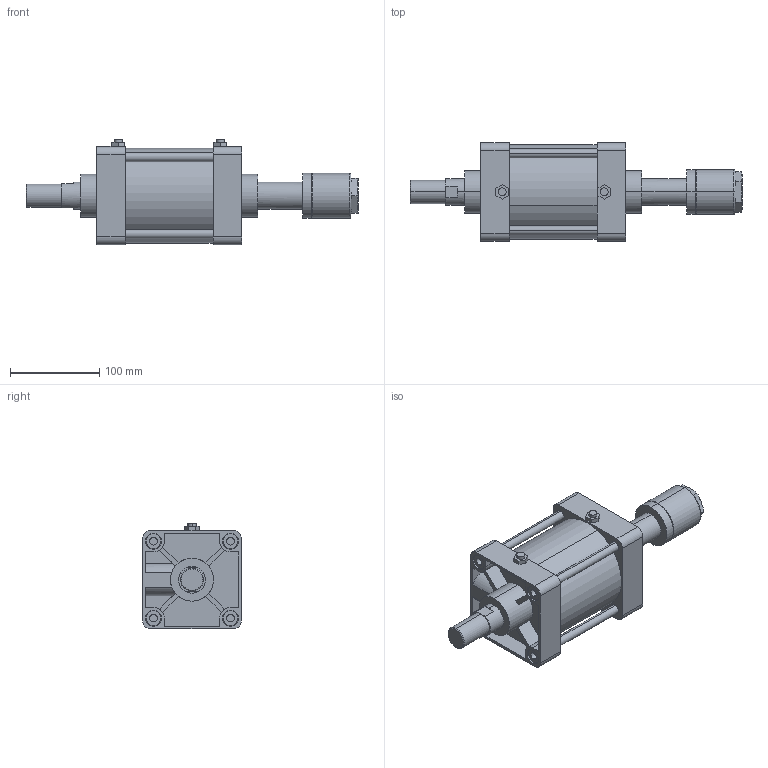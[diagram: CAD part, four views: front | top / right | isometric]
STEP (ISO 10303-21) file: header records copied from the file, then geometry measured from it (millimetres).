
FILE_DESCRIPTION (( 'STEP AP203' ), '1' );
FILE_NAME ('KGA7-100#-50-N.STEP', '2016-04-14T07:55:54', ( '' ), ( '' ), 'SwSTEP 2.0', 'SolidWorks 2014', '' );
FILE_SCHEMA (( 'CONFIG_CONTROL_DESIGN' ));
Length unit declared in the file: millimetre
Products named in the file (8): KGA7-100-Turn; K#7-100-50-After; KGA7-100#-50-N; KGLH2-100-50
Assembly tree (17 placements, depth 2):
  KGA7-100#-50-N
    K#7-100-50-After
    KGLH2-100-50
    (unnamed)
    (unnamed)  x4
    (unnamed)  x8
    KGA7-100-Turn
    (unnamed)
Bounding box: 371 x 110 x 118.3 mm (x, y, z)
Volume: 1665178.4 mm3; surface area: 237421.2 mm2
Topology: 17 solids, 17 shells, 356 faces, 827 edges, 526 vertices
Faces by surface type: plane 151, cylinder 131, torus 46, cone 28
Entity records: 9156 total; most frequent: CARTESIAN_POINT 1651, DIRECTION 1417, ORIENTED_EDGE 1274, EDGE_CURVE 637, AXIS2_PLACEMENT_3D 540, VERTEX_POINT 416, VECTOR 337, LINE 337
